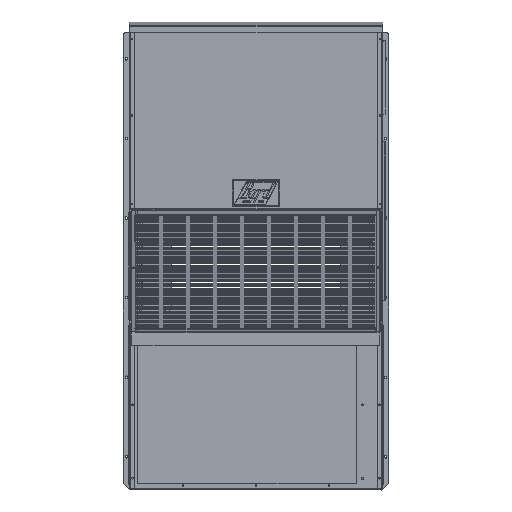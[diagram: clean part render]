
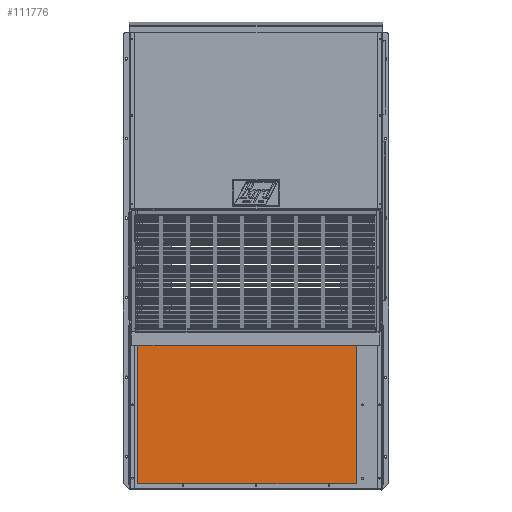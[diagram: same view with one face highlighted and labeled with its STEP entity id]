
A CAD part, top view. The second image highlights one B-rep face of the part: STEP entity #111776.
In plain terms, the highlighted planar face has unit normal (0, 0, 1).
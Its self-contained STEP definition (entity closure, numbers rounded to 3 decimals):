
#2860 = DIRECTION ( 'NONE',  ( 0., -1., 0. ) ) ;
#10178 = LINE ( 'NONE', #90960, #83822 ) ;
#10493 = ORIENTED_EDGE ( 'NONE', *, *, #166166, .F. ) ;
#10686 = VECTOR ( 'NONE', #107898, 39.37 ) ;
#17548 = VERTEX_POINT ( 'NONE', #139879 ) ;
#17654 = ORIENTED_EDGE ( 'NONE', *, *, #161616, .F. ) ;
#18937 = CARTESIAN_POINT ( 'NONE',  ( -36.784, 24.047, 0.149 ) ) ;
#19853 = CARTESIAN_POINT ( 'NONE',  ( -36.784, 0.149, 0.149 ) ) ;
#25689 = AXIS2_PLACEMENT_3D ( 'NONE', #92377, #164235, #107104 ) ;
#45295 = LINE ( 'NONE', #19853, #10686 ) ;
#57758 = CARTESIAN_POINT ( 'NONE',  ( -36.784, 0.149, 0.149 ) ) ;
#60589 = VERTEX_POINT ( 'NONE', #57758 ) ;
#63305 = DIRECTION ( 'NONE',  ( 1., 0., 0. ) ) ;
#77571 = PLANE ( 'NONE',  #25689 ) ;
#83822 = VECTOR ( 'NONE', #2860, 39.37 ) ;
#90960 = CARTESIAN_POINT ( 'NONE',  ( -3.858, 24.047, 0.149 ) ) ;
#92377 = CARTESIAN_POINT ( 'NONE',  ( -3.858, 24.047, 0.149 ) ) ;
#92745 = EDGE_CURVE ( 'NONE', #60589, #114317, #160869, .T. ) ;
#99346 = CARTESIAN_POINT ( 'NONE',  ( -3.858, 24.047, 0.149 ) ) ;
#100339 = DIRECTION ( 'NONE',  ( 0., 1., 0. ) ) ;
#107104 = DIRECTION ( 'NONE',  ( 0., 1., 0. ) ) ;
#107898 = DIRECTION ( 'NONE',  ( -1., 0., 0. ) ) ;
#108242 = CARTESIAN_POINT ( 'NONE',  ( -36.784, 24.047, 0.149 ) ) ;
#111776 = ADVANCED_FACE ( 'NONE', ( #179275 ), #77571, .F. ) ;
#114317 = VERTEX_POINT ( 'NONE', #18937 ) ;
#115073 = VERTEX_POINT ( 'NONE', #99346 ) ;
#121860 = VECTOR ( 'NONE', #100339, 39.37 ) ;
#123769 = LINE ( 'NONE', #108242, #162788 ) ;
#139879 = CARTESIAN_POINT ( 'NONE',  ( -3.858, 0.149, 0.149 ) ) ;
#142810 = EDGE_CURVE ( 'NONE', #115073, #17548, #10178, .T. ) ;
#150907 = ORIENTED_EDGE ( 'NONE', *, *, #92745, .F. ) ;
#158714 = CARTESIAN_POINT ( 'NONE',  ( -36.784, 24.047, 0.149 ) ) ;
#158883 = ORIENTED_EDGE ( 'NONE', *, *, #142810, .F. ) ;
#160869 = LINE ( 'NONE', #158714, #121860 ) ;
#161616 = EDGE_CURVE ( 'NONE', #17548, #60589, #45295, .T. ) ;
#162788 = VECTOR ( 'NONE', #63305, 39.37 ) ;
#164235 = DIRECTION ( 'NONE',  ( 0., 0., -1. ) ) ;
#166166 = EDGE_CURVE ( 'NONE', #114317, #115073, #123769, .T. ) ;
#179275 = FACE_OUTER_BOUND ( 'NONE', #190587, .T. ) ;
#190587 = EDGE_LOOP ( 'NONE', ( #150907, #17654, #158883, #10493 ) ) ;
